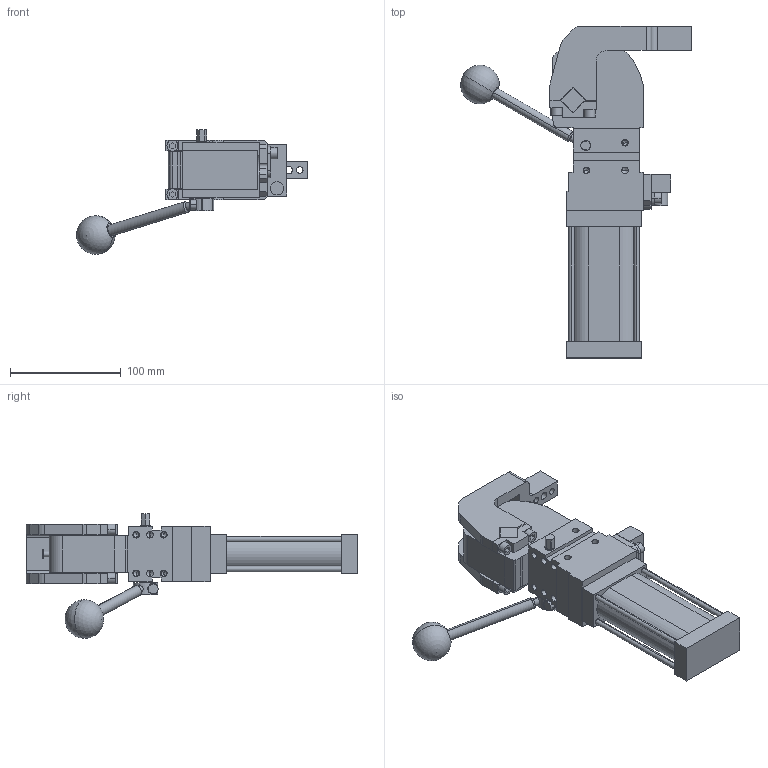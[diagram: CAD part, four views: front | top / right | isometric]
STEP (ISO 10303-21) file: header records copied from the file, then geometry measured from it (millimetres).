
FILE_DESCRIPTION (( 'STEP AP214' ), '1' );
FILE_NAME ('cplm40lbv3csi1g_57.STEP', '2021-05-25T13:51:09', ( '' ), ( '' ), 'SwSTEP 2.0', 'SolidWorks 2021', '' );
FILE_SCHEMA (( 'AUTOMOTIVE_DESIGN' ));
Length unit declared in the file: millimetre
Products named in the file (6): blocchetto_VEP_0_cpl40; meccanica_cplm40; piastra_blocchetto_cpl40; cplm40lbv3csi1g_57; leva_v3c_cpl40; comando_manuale_cplm_40
Assembly tree (5 placements, depth 2):
  cplm40lbv3csi1g_57
    meccanica_cplm40
    blocchetto_VEP_0_cpl40
    piastra_blocchetto_cpl40
    leva_v3c_cpl40
    comando_manuale_cplm_40
Bounding box: 208.69 x 300 x 112.66 mm (x, y, z)
Volume: 824463.8 mm3; surface area: 130997.7 mm2
Topology: 6 solids, 6 shells, 500 faces, 1288 edges, 815 vertices
Faces by surface type: plane 289, cylinder 163, cone 46, sphere 2
Entity records: 16520 total; most frequent: CARTESIAN_POINT 2679, DIRECTION 2635, ORIENTED_EDGE 2482, EDGE_CURVE 1241, AXIS2_PLACEMENT_3D 890, LINE 855, VECTOR 855, VERTEX_POINT 812
